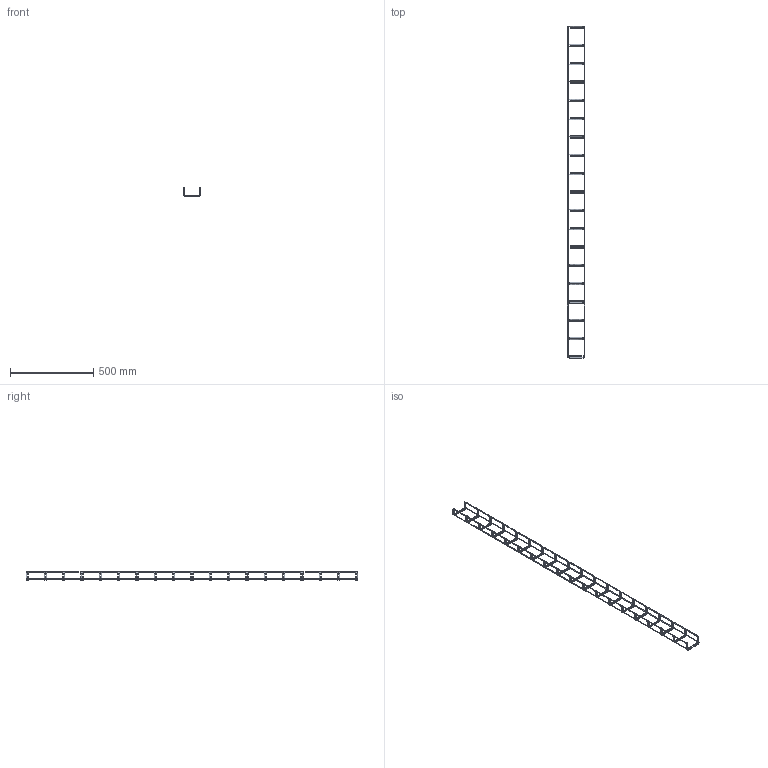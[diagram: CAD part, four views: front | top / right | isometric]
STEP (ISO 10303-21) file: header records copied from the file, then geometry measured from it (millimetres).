
FILE_DESCRIPTION(/* description */ (''),/* implementation_level */ '2;1');
FILE_NAME(/* name */ 'M2_100×050',/* time_stamp */ '2012-11-29T22:01:19+01:00',/* author */ (''),/* organization */ (''),/* preprocessor_version */ 'ST-DEVELOPER v10',/* originating_system */ '',/* authorisation */ '');
FILE_SCHEMA (('AUTOMOTIVE_DESIGN_CC2'));
Length unit declared in the file: millimetre
Products named in the file (1): 1
Bounding box: 104.19 x 1993.5 x 50.75 mm (x, y, z)
Surface area: 180432.9 mm2 (no closed solid volume)
Topology: 0 solids, 312 shells, 616 faces, 1832 edges, 1224 vertices
Faces by surface type: bspline 608, plane 8
Entity records: 52292 total; most frequent: CARTESIAN_POINT 40724, ORIENTED_EDGE 2440, EDGE_CURVE 1832, VERTEX_POINT 1224, B_SPLINE_CURVE_WITH_KNOTS 680, ADVANCED_FACE 616, FACE_OUTER_BOUND 616, EDGE_LOOP 616
